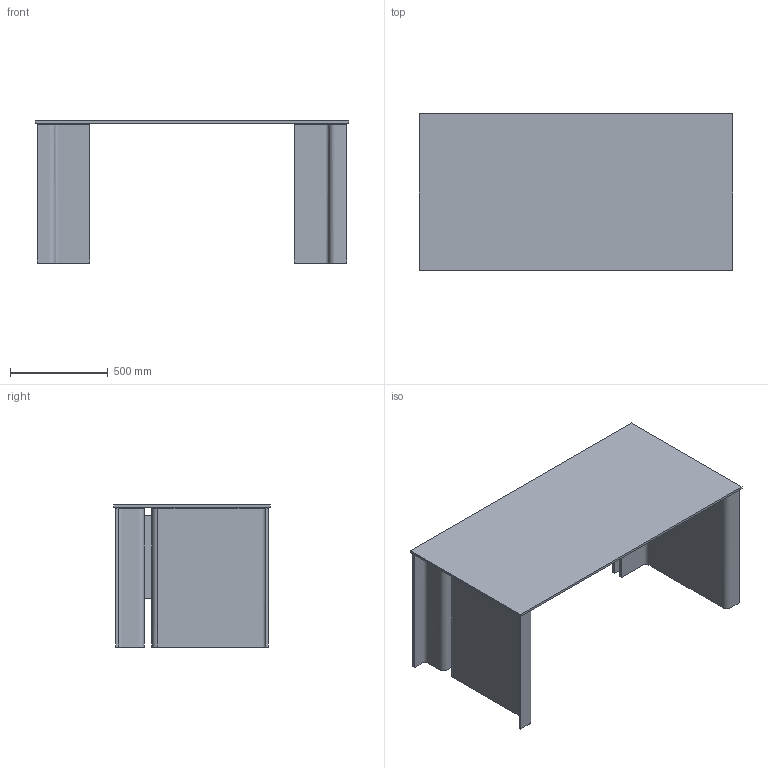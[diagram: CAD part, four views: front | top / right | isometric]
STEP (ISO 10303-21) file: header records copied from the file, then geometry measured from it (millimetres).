
FILE_DESCRIPTION(/* description */ (''),/* implementation_level */ '2;1');
FILE_NAME(/* name */ 'S1333 - Luminare Scrivania 160x80',/* time_stamp */ '2010-12-10T09:55:10+01:00',/* author */ (''),/* organization */ (''),/* preprocessor_version */ 'ST-DEVELOPER v10',/* originating_system */ '',/* authorisation */ '');
FILE_SCHEMA (('CONFIG_CONTROL_DESIGN'));
Length unit declared in the file: centimetre
Products named in the file (1): 1
Bounding box: 1600 x 800 x 726 mm (x, y, z)
Volume: 16041989.3 mm3; surface area: 6227027.3 mm2
Topology: 17 solids, 21 shells, 92 faces, 174 edges, 116 vertices
Faces by surface type: plane 54, bspline 38
Entity records: 2788 total; most frequent: CARTESIAN_POINT 1513, ORIENTED_EDGE 312, EDGE_CURVE 174, VERTEX_POINT 116, B_SPLINE_CURVE_WITH_KNOTS 98, ADVANCED_FACE 92, FACE_OUTER_BOUND 92, EDGE_LOOP 92
